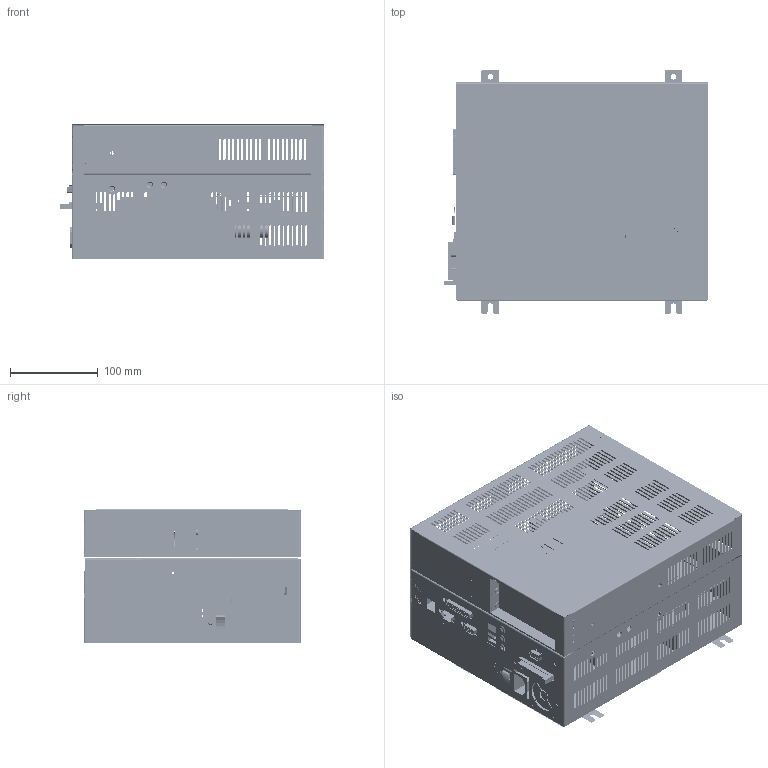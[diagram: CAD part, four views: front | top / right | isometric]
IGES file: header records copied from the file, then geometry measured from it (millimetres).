
Start section:  PTC IGES file: hp_remote_pci_exp.igs
Global section: file name: hp_remote_pci_exp.igs; native system: Pro/ENGINEER by Parametric Technology Corporation; preprocessor: 2000100; author: srollman; organization: Unknown; date: 050106.094104; units: inch
Bounding box: 299.78 x 277.24 x 155.12 mm (x, y, z)
Surface area: 928948.3 mm2 (no closed solid volume)
Topology: 0 solids, 0 shells, 525 faces, 9944 edges, 9941 vertices
Faces by surface type: bspline 451, revolution 74
